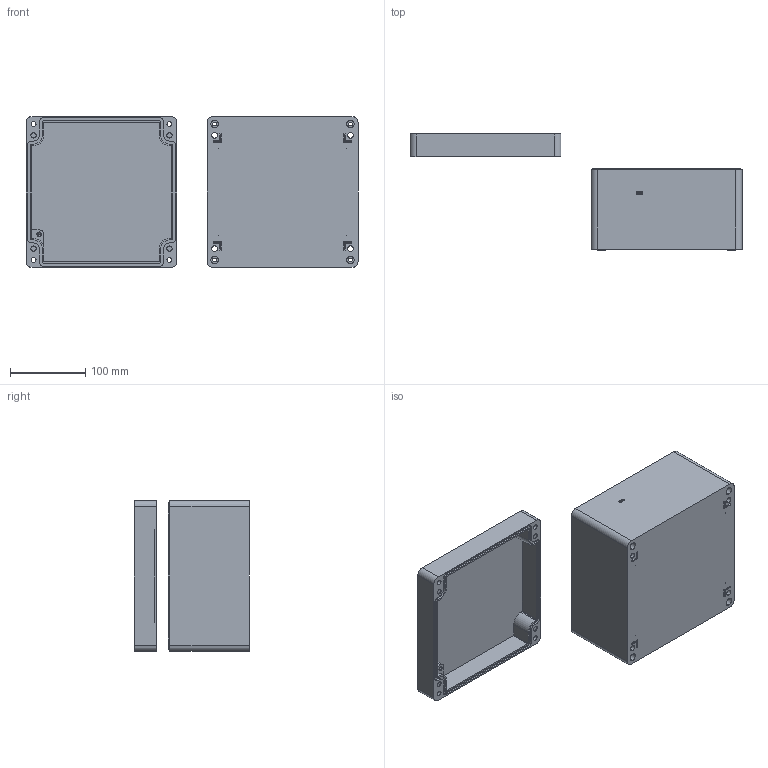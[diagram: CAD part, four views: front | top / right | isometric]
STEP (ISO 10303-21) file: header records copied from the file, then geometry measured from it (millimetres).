
FILE_DESCRIPTION (( 'STEP AP203' ), '1' );
FILE_NAME ('ZX-AL-202013_装配体.STEP', '2022-01-24T09:12:49', ( '微软用户' ), ( '微软中国' ), 'SwSTEP 2.0', 'SolidWorks 2020', '' );
FILE_SCHEMA (( 'CONFIG_CONTROL_DESIGN' ));
Length unit declared in the file: millimetre
Products named in the file (3): ZX-AL-202013_蚾饜极; ZX-AL-202013_奻; ZX-AL-202013_狟
Assembly tree (2 placements, depth 2):
  ZX-AL-202013_蚾饜极
    ZX-AL-202013_狟
    ZX-AL-202013_奻
Bounding box: 439.83 x 153.52 x 200 mm (x, y, z)
Volume: 947287.8 mm3; surface area: 397096.9 mm2
Topology: 2 solids, 2 shells, 689 faces, 1850 edges, 1197 vertices
Faces by surface type: plane 342, cylinder 172, bspline 123, cone 52
Entity records: 27219 total; most frequent: CARTESIAN_POINT 10370, ORIENTED_EDGE 3656, DIRECTION 3026, EDGE_CURVE 1828, LINE 1232, VECTOR 1232, VERTEX_POINT 1197, AXIS2_PLACEMENT_3D 897
